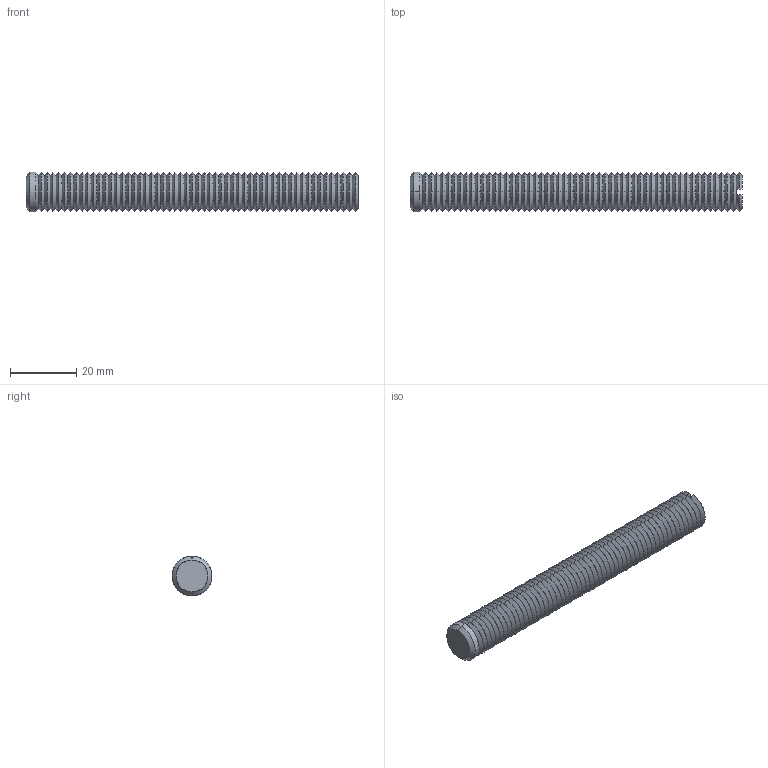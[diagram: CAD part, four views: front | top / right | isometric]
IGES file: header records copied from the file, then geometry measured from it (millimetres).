
Start section: SolidWorks IGES file using analytic representation for surfaces
Global section: file name: C:\Documents and Settings\IANO\Desktop\Temp File\Process pending\EXISTING\34300_v2\34300_v2_20170622_IGES\34300.W0129.igs; native system: SolidWorks 2009; preprocessor: SolidWorks 2009; author: IANO; date: 170622.094325; units: millimetre
Bounding box: 100 x 12 x 12 mm (x, y, z)
Surface area: 5621.5 mm2 (no closed solid volume)
Topology: 0 solids, 0 shells, 232 faces, 992 edges, 992 vertices
Faces by surface type: revolution 226, bspline 6
